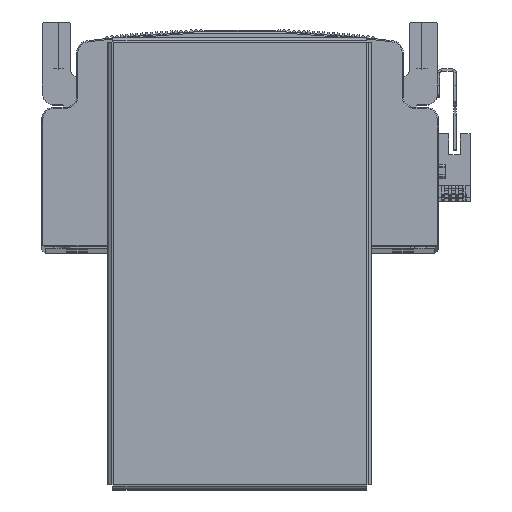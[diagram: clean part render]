
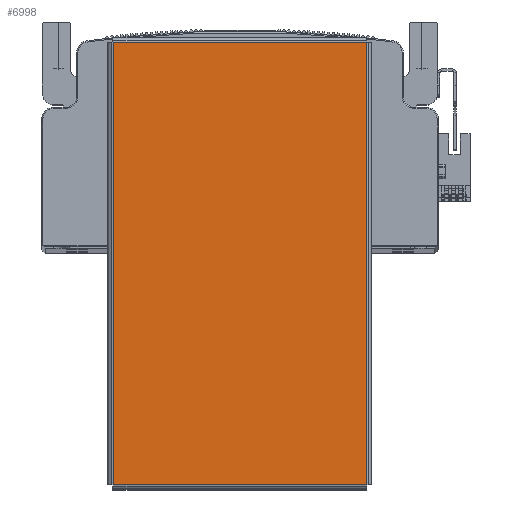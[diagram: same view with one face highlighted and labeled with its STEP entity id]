
A CAD part, top view. The second image highlights one B-rep face of the part: STEP entity #6998.
In plain terms, the highlighted planar face has unit normal (0, 0, 1) as drawn and (0, -1, 0) by its records, which use the part's own axes.
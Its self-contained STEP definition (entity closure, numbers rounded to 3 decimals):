
#6998 = ADVANCED_FACE ( 'NONE', ( #18627 ), #24398, .F. ) ;
#10482 = EDGE_CURVE ( 'NONE', #58009, #58085, #60111, .T. ) ;
#10505 = EDGE_CURVE ( 'NONE', #58079, #58006, #60037, .T. ) ;
#10526 = EDGE_CURVE ( 'NONE', #58085, #58079, #60133, .T. ) ;
#10553 = EDGE_CURVE ( 'NONE', #58006, #58009, #60227, .T. ) ;
#18627 = FACE_OUTER_BOUND ( 'NONE', #38959, .T. ) ;
#24377 = DIRECTION ( 'NONE',  ( 0., 0., 1. ) ) ;
#24387 = DIRECTION ( 'NONE',  ( 0., 1., 0. ) ) ;
#24398 = PLANE ( 'NONE',  #28351 ) ;
#24450 = CARTESIAN_POINT ( 'NONE',  ( 0., -1.5, 0. ) ) ;
#28351 = AXIS2_PLACEMENT_3D ( 'NONE', #24450, #24387, #24377 ) ;
#38959 = EDGE_LOOP ( 'NONE', ( #61138, #61126, #61006, #61068 ) ) ;
#41520 = CARTESIAN_POINT ( 'NONE',  ( 94.793, -1.5, 54.363 ) ) ;
#41521 = DIRECTION ( 'NONE',  ( -1., 0., 0. ) ) ;
#41529 = CARTESIAN_POINT ( 'NONE',  ( -94.793, -1.5, -54.363 ) ) ;
#41533 = DIRECTION ( 'NONE',  ( 1., 0., 0. ) ) ;
#41620 = DIRECTION ( 'NONE',  ( 0., 0., -1. ) ) ;
#41641 = CARTESIAN_POINT ( 'NONE',  ( -94.763, -1.5, 54.393 ) ) ;
#41703 = CARTESIAN_POINT ( 'NONE',  ( 94.763, -1.5, -54.393 ) ) ;
#41725 = DIRECTION ( 'NONE',  ( 0., 0., 1. ) ) ;
#58006 = VERTEX_POINT ( 'NONE', #65975 ) ;
#58009 = VERTEX_POINT ( 'NONE', #65980 ) ;
#58079 = VERTEX_POINT ( 'NONE', #66006 ) ;
#58085 = VERTEX_POINT ( 'NONE', #66019 ) ;
#60009 = VECTOR ( 'NONE', #41521, 1000. ) ;
#60037 = LINE ( 'NONE', #41529, #60049 ) ;
#60049 = VECTOR ( 'NONE', #41533, 1000. ) ;
#60111 = LINE ( 'NONE', #41520, #60009 ) ;
#60131 = VECTOR ( 'NONE', #41725, 1000. ) ;
#60133 = LINE ( 'NONE', #41641, #60185 ) ;
#60185 = VECTOR ( 'NONE', #41620, 1000. ) ;
#60227 = LINE ( 'NONE', #41703, #60131 ) ;
#61006 = ORIENTED_EDGE ( 'NONE', *, *, #10505, .T. ) ;
#61068 = ORIENTED_EDGE ( 'NONE', *, *, #10553, .T. ) ;
#61126 = ORIENTED_EDGE ( 'NONE', *, *, #10526, .T. ) ;
#61138 = ORIENTED_EDGE ( 'NONE', *, *, #10482, .T. ) ;
#65975 = CARTESIAN_POINT ( 'NONE',  ( 94.763, -1.5, -54.363 ) ) ;
#65980 = CARTESIAN_POINT ( 'NONE',  ( 94.763, -1.5, 54.363 ) ) ;
#66006 = CARTESIAN_POINT ( 'NONE',  ( -94.763, -1.5, -54.363 ) ) ;
#66019 = CARTESIAN_POINT ( 'NONE',  ( -94.763, -1.5, 54.363 ) ) ;
